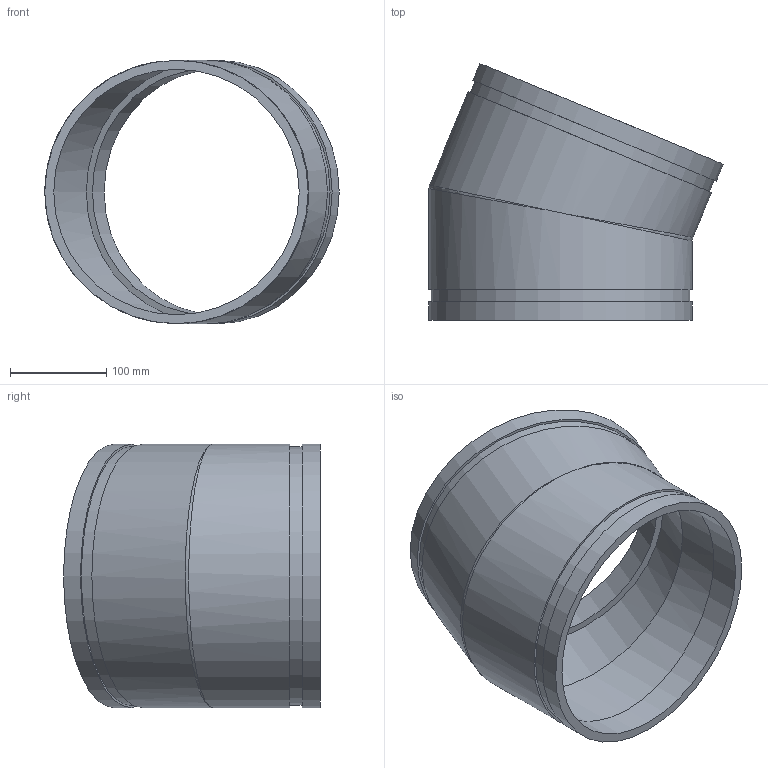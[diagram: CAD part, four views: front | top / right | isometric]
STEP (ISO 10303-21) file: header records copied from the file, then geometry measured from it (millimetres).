
FILE_DESCRIPTION(/* description */ ('VIC ELBOW 22 1/2 DEG No 12 (OGS)','CAx-IF Rec.Pracs.---Representation and Presentation of Product Manufacturing Information (PMI)---4.0---2014-10-13'),/* implementation_level */ '2;1');
FILE_NAME(/* name */ 'C:\Users\Vjadhav\Desktop\CAD for Inventor\1\12\STEP\Victaulic_IPS_Elbow 22.5 Deg_No 12 (OGS)\Victaulic_IPS_Elbow 22.5 Deg_No 12 (OGS)_10 (250).stp',/* time_stamp */ '2021-12-22T09:20:22+06:00',/* author */ ('CONSTRUCTION PIPING SERVICES'),/* organization */ ('Victaulic'),/* preprocessor_version */ 'ST-DEVELOPER v17.2',/* originating_system */ 'Autodesk Inventor 2019',/* authorisation */ '');
FILE_SCHEMA (('AP242_MANAGED_MODEL_BASED_3D_ENGINEERING_MIM_LF { 1 0 10303 442 1 1 4 }'));
Length unit declared in the file: inch
Products named in the file (1): 012-10.0
Bounding box: 305.23 x 266.28 x 273.05 mm (x, y, z)
Volume: 759086.8 mm3; surface area: 410041.3 mm2
Topology: 3 solids, 3 shells, 20 faces, 45 edges, 29 vertices
Faces by surface type: cylinder 10, plane 8, bspline 2
Full cylindrical faces by diameter (mm): 254.508 x2, 268.275 x4, 273.05 x4
Entity records: 846 total; most frequent: CARTESIAN_POINT 242, DIRECTION 136, ORIENTED_EDGE 82, AXIS2_PLACEMENT_3D 63, EDGE_CURVE 41, VERTEX_POINT 29, EDGE_LOOP 28, STYLED_ITEM 24
